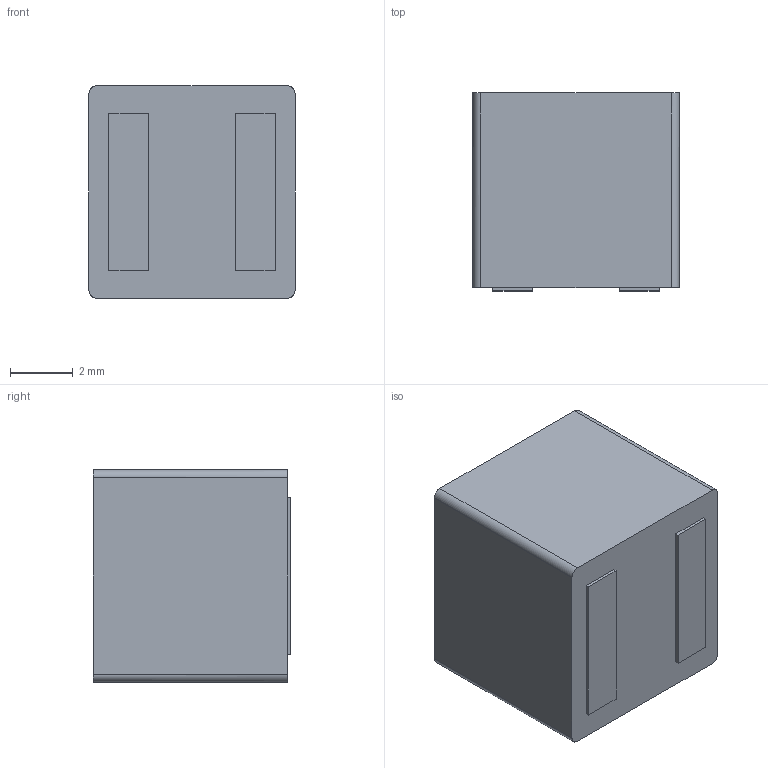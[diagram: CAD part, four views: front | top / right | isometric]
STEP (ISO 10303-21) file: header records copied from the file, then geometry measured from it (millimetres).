
FILE_DESCRIPTION (( 'STEP AP214' ), '1' );
FILE_NAME ('XAL6060-153MEC.STEP', '2024-09-17T16:50:57', ( '' ), ( '' ), 'SwSTEP 2.0', 'SolidWorks 2024', '' );
FILE_SCHEMA (( 'AUTOMOTIVE_DESIGN' ));
Length unit declared in the file: millimetre
Products named in the file (1): XAL6060-153MEC
Bounding box: 6.56 x 6.3 x 6.76 mm (x, y, z)
Volume: 275.8 mm3; surface area: 253.6 mm2
Topology: 1 solids, 1 shells, 20 faces, 48 edges, 32 vertices
Faces by surface type: plane 16, cylinder 4
Entity records: 831 total; most frequent: CARTESIAN_POINT 121, ORIENTED_EDGE 96, DIRECTION 90, EDGE_CURVE 48, VECTOR 40, LINE 40, VERTEX_POINT 32, AXIS2_PLACEMENT_3D 25
